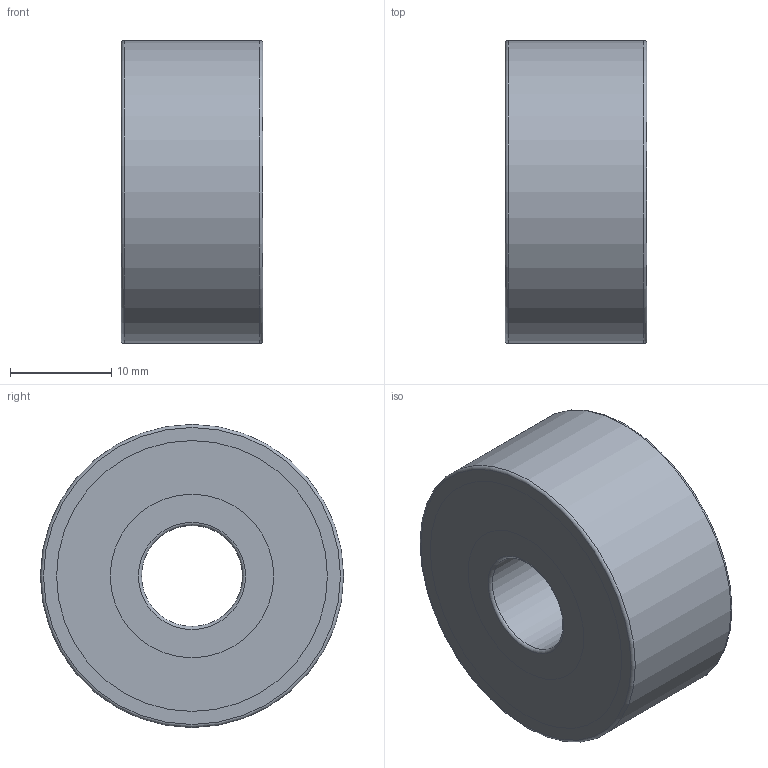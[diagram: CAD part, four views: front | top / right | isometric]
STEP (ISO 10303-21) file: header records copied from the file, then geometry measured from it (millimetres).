
FILE_DESCRIPTION(/* description */ (''),/* implementation_level */ '2;1');
FILE_NAME(/* name */ 'D:\moje\parametrické\622--\rada622-2RSR\622---2RSR\62200-2RSR.stp',/* time_stamp */ '2016-04-06T10:29:21+02:00',/* author */ ('OUBALASKO'),/* organization */ (''),/* preprocessor_version */ 'ST-DEVELOPER v15.2',/* originating_system */ 'Autodesk Inventor 2014',/* authorisation */ '');
FILE_SCHEMA (('AUTOMOTIVE_DESIGN { 1 0 10303 214 3 1 1 }'));
Length unit declared in the file: millimetre
Products named in the file (6): 62200-02-2RSR; 62200-ball; 62200-cage; 62200-01-2RSR; 62200-seal-2RSR,ZR; 62200-2RSR
Bounding box: 14 x 30 x 30 mm (x, y, z)
Volume: 6551.6 mm3; surface area: 7293 mm2
Topology: 14 solids, 14 shells, 104 faces, 366 edges, 240 vertices
Faces by surface type: plane 42, sphere 40, cylinder 16, torus 6
Full cylindrical faces by diameter (mm): 10 x1, 16.19 x4, 18.571 x2, 21.429 x2, 23.81 x2, 26.81 x4, 30 x1
Entity records: 2464 total; most frequent: CARTESIAN_POINT 962, DIRECTION 336, ORIENTED_EDGE 242, AXIS2_PLACEMENT_3D 168, EDGE_CURVE 121, VERTEX_POINT 90, CIRCLE 89, EDGE_LOOP 85
